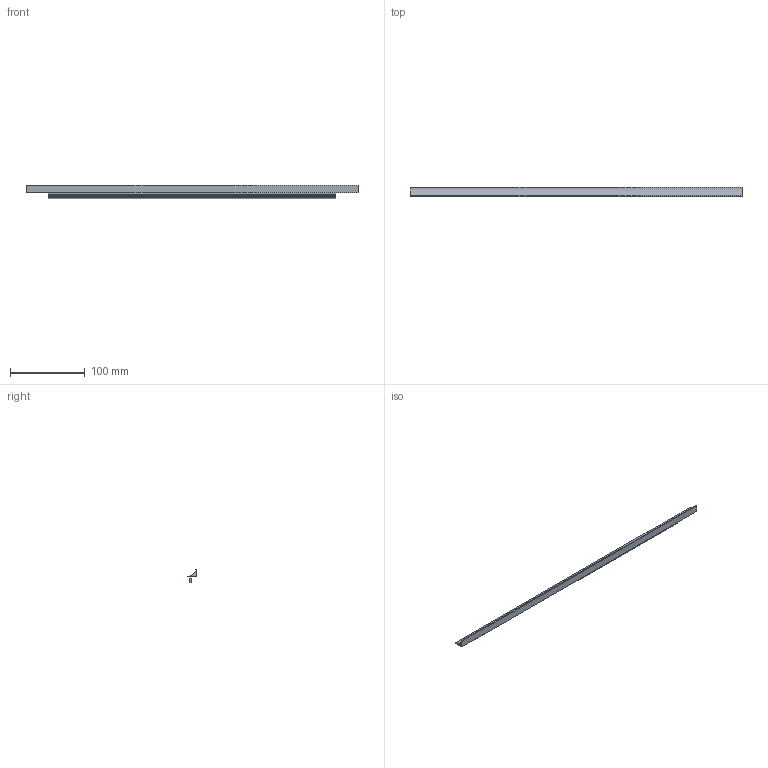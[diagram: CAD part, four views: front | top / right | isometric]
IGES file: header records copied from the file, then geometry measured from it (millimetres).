
Start section: Data from Parasolid IGES Translator 20.0.26, Copyright(c) 2006 Siemens P LM Software. All Rights Reserved.
Global section: file name: 9208091.igs; native system: By Siemens PLM Incorporated; preprocessor: XPlus GENERIC/IGES 20.0.26; author: Noname; organization: Noname; date: 20230313.143146; units: millimetre
Bounding box: 445 x 12.5 x 18 mm (x, y, z)
Surface area: 25483.3 mm2 (no closed solid volume)
Topology: 0 solids, 0 shells, 29 faces, 156 edges, 156 vertices
Faces by surface type: extrusion 25, revolution 4
